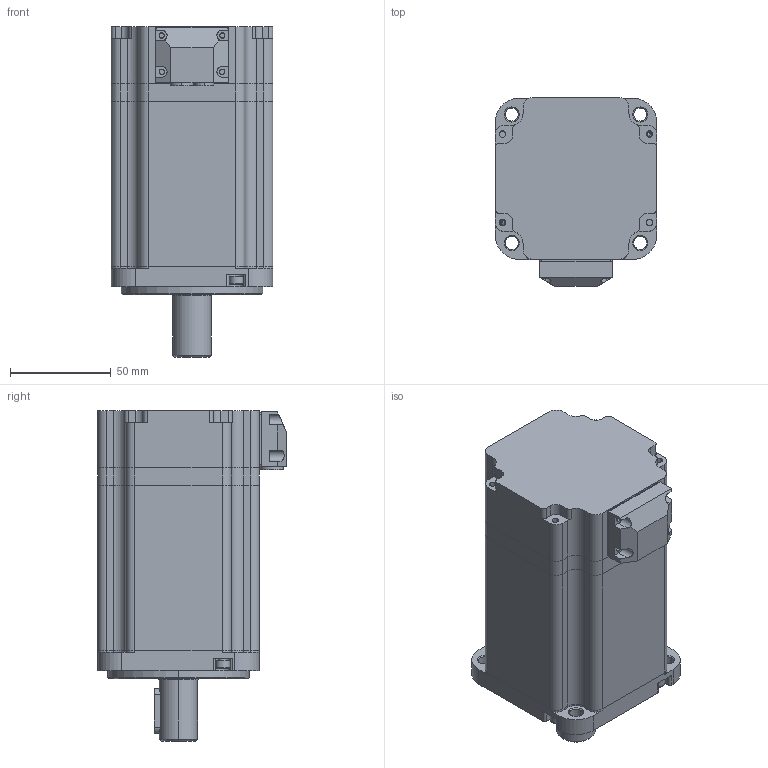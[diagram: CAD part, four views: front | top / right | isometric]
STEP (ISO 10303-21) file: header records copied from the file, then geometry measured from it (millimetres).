
FILE_DESCRIPTION (( 'STEP AP203' ), '1' );
FILE_NAME ('9.6947 SMC80S-0075-30MAK-3LSU.STEP', '2018-10-09T01:48:41', ( '' ), ( '' ), 'SwSTEP 2.0', 'SolidWorks 2008', '' );
FILE_SCHEMA (( 'CONFIG_CONTROL_DESIGN' ));
Length unit declared in the file: millimetre
Products named in the file (1): 9.6947 SMC80S-0075-30MAK-3LSU
Bounding box: 80 x 93.5 x 163.7 mm (x, y, z)
Surface area: 66547.1 mm2 (no closed solid volume)
Topology: 0 solids, 16 shells, 404 faces, 1221 edges, 821 vertices
Faces by surface type: cylinder 189, plane 183, cone 24, bspline 8
Entity records: 13936 total; most frequent: CARTESIAN_POINT 2683, DIRECTION 2495, ORIENTED_EDGE 2126, EDGE_CURVE 1215, AXIS2_PLACEMENT_3D 901, VERTEX_POINT 821, VECTOR 693, LINE 693
